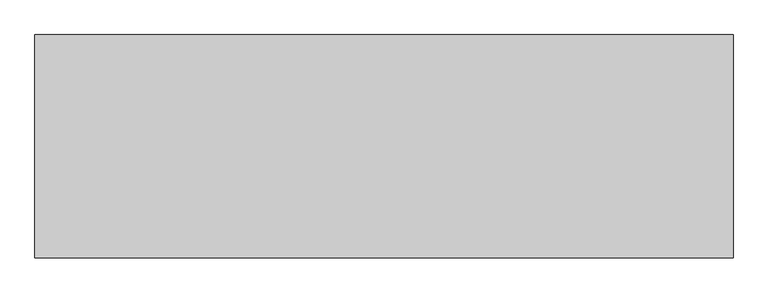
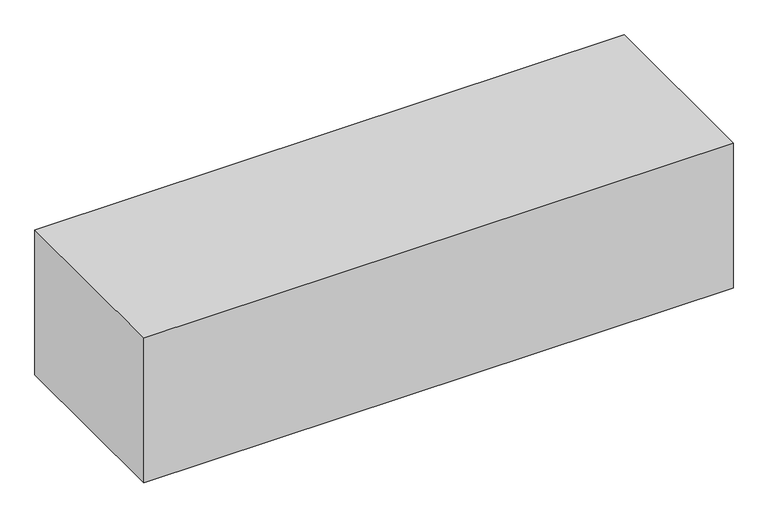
"""IFC4 building model written with IfcOpenShell, lengths in millimetres: proxy geometry, Brunnenstube : Brunnenstube."""

from ifc_helpers import new_model, si_unit, frame, origin, place, context, project, spatial, polyline, outline, extrude, source, transform, mapped, element, save


def generic_models_3f7ea370(model_context):
    return source(origin(), model_context, "Body", "SweptSolid", [
        extrude(outline(polyline([(0.0, -0.3280642), (0.0, -1600.3280642), (-5000.0, -1600.3280642), (-5000.0, -0.3280642), (0.0, -0.3280642)])), frame((0.0, 0.0, -3300.7178286), z_axis=(0.0, 0.0, 1.0), x_axis=(1.0, 0.0, 0.0)), (0.0, 0.0, 1.0), 1300.7178286),
    ])


if __name__ == "__main__":
    model = new_model("IFC4")
    model_context = context("Model", 3, world=origin())
    ifc_project = project(units=[si_unit("LENGTHUNIT", "METRE", prefix="MILLI")], contexts=[model_context])
    site = spatial("IfcSite", under=ifc_project)
    building = spatial("IfcBuilding", under=site)
    placement = place(None, origin())
    generic_models_shape = generic_models_3f7ea370(model_context)
    element("IfcBuildingElementProxy", 1, Name="Brunnenstube : Brunnenstube", ObjectType="Brunnenstube : Brunnenstube", at=placement, inside=building, context=model_context, shape_type="MappedRepresentation", body=[
        mapped(generic_models_shape, transform((0.0, 0.0, 0.0), x_axis=(1.0, 0.0, 0.0), y_axis=(0.0, 1.0, 0.0), z_axis=(0.0, 0.0, 1.0))),
    ])
    save(model, "model.ifc")
